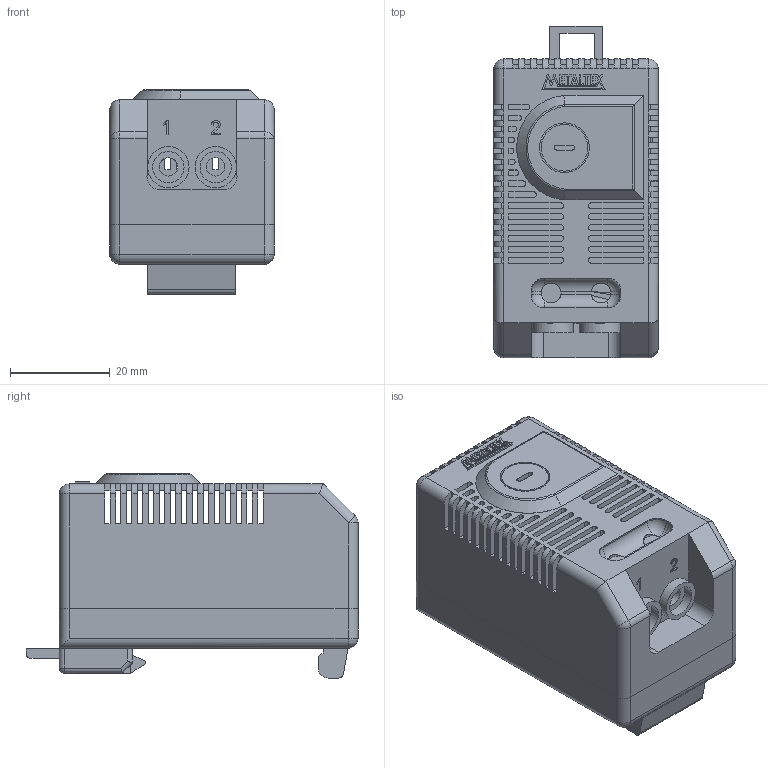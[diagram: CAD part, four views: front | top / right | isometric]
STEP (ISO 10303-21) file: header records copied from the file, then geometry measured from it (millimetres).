
FILE_DESCRIPTION(('FreeCAD Model'),'2;1');
FILE_NAME('Open CASCADE Shape Model','2021-11-12T09:28:32',( 'Engenharia Metaltex'),('Metaltex'), 'Open CASCADE STEP processor 7.5','FreeCAD','Unknown');
FILE_SCHEMA(('AUTOMOTIVE_DESIGN { 1 0 10303 214 1 1 1 1 }'));
Length unit declared in the file: millimetre
Products named in the file (4): TRS; Fusion004; Presilha; Corpo frontal
Assembly tree (3 placements, depth 2):
  TRS
    Fusion004
    Presilha
    Corpo frontal
Bounding box: 33 x 66.67 x 41 mm (x, y, z)
Volume: 34776.7 mm3; surface area: 22346.1 mm2
Topology: 10 solids, 10 shells, 695 faces, 2118 edges, 1367 vertices
Faces by surface type: plane 414, cylinder 149, bspline 96, extrusion 22, sphere 12, cone 1, torus 1
Full cylindrical faces by diameter (mm): 3.7 x2, 4 x1, 6.3 x2, 8.3 x2, 9.4 x1, 10 x1
Entity records: 51571 total; most frequent: CARTESIAN_POINT 11343, DIRECTION 6783, VECTOR 4887, LINE 4865, ORIENTED_EDGE 4216, PCURVE 4216, DEFINITIONAL_REPRESENTATION 4216, EDGE_CURVE 2108
